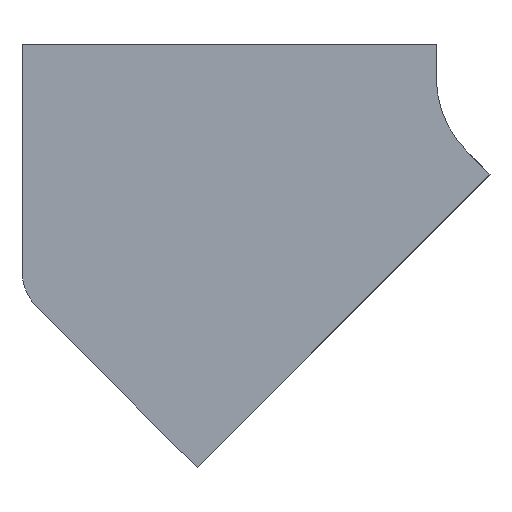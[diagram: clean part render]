
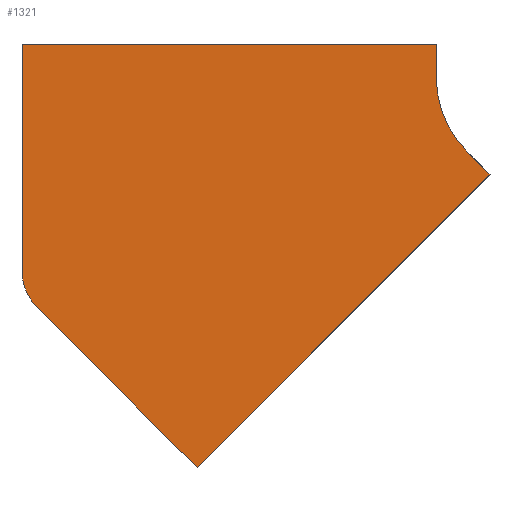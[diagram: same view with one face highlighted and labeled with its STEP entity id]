
A CAD part, front view. The second image highlights one B-rep face of the part: STEP entity #1321.
In plain terms, the highlighted planar face has unit normal (0, -1, 0).
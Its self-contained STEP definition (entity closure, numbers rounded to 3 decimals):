
#1 = CARTESIAN_POINT ( 'NONE',  ( -625., 0., 40. ) ) ;
#5 = VERTEX_POINT ( 'NONE', #1601 ) ;
#39 = CARTESIAN_POINT ( 'NONE',  ( 0., 0., 0. ) ) ;
#65 = DIRECTION ( 'NONE',  ( 0., 1., 0. ) ) ;
#101 = DIRECTION ( 'NONE',  ( 1., 0., 0. ) ) ;
#113 = ORIENTED_EDGE ( 'NONE', *, *, #257, .F. ) ;
#120 = LINE ( 'NONE', #1, #1592 ) ;
#162 = LINE ( 'NONE', #1578, #379 ) ;
#179 = DIRECTION ( 'NONE',  ( 0., -1., 0. ) ) ;
#217 = ORIENTED_EDGE ( 'NONE', *, *, #891, .F. ) ;
#254 = AXIS2_PLACEMENT_3D ( 'NONE', #1337, #179, #1073 ) ;
#257 = EDGE_CURVE ( 'NONE', #1111, #764, #1414, .T. ) ;
#265 = EDGE_CURVE ( 'NONE', #1310, #1101, #496, .T. ) ;
#272 = DIRECTION ( 'NONE',  ( -0.707, 0., -0.707 ) ) ;
#279 = CARTESIAN_POINT ( 'NONE',  ( -413.657, 0., -470.226 ) ) ;
#324 = ORIENTED_EDGE ( 'NONE', *, *, #1114, .F. ) ;
#353 = CARTESIAN_POINT ( 'NONE',  ( -413.657, 0., -470.226 ) ) ;
#379 = VECTOR ( 'NONE', #272, 1000. ) ;
#410 = ORIENTED_EDGE ( 'NONE', *, *, #1201, .F. ) ;
#415 = DIRECTION ( 'NONE',  ( 0.707, 0., -0.707 ) ) ;
#461 = VECTOR ( 'NONE', #1421, 1000. ) ;
#462 = VERTEX_POINT ( 'NONE', #1437 ) ;
#496 = LINE ( 'NONE', #353, #461 ) ;
#507 = CARTESIAN_POINT ( 'NONE',  ( -606.694, 0., -277.189 ) ) ;
#538 = PLANE ( 'NONE',  #254 ) ;
#547 = CARTESIAN_POINT ( 'NONE',  ( -60.104, 0., -116.673 ) ) ;
#556 = DIRECTION ( 'NONE',  ( 0., -1., 0. ) ) ;
#574 = EDGE_CURVE ( 'NONE', #1101, #462, #839, .T. ) ;
#583 = DIRECTION ( 'NONE',  ( 0., 0., 1. ) ) ;
#746 = CARTESIAN_POINT ( 'NONE',  ( -125., 0., 40. ) ) ;
#764 = VERTEX_POINT ( 'NONE', #1393 ) ;
#789 = VECTOR ( 'NONE', #1000, 1000. ) ;
#839 = CIRCLE ( 'NONE', #1643, 62.5 ) ;
#891 = EDGE_CURVE ( 'NONE', #1654, #1310, #162, .T. ) ;
#926 = LINE ( 'NONE', #1579, #1431 ) ;
#938 = ORIENTED_EDGE ( 'NONE', *, *, #574, .F. ) ;
#959 = CARTESIAN_POINT ( 'NONE',  ( -88.388, 0., -88.388 ) ) ;
#1000 = DIRECTION ( 'NONE',  ( 0., 0., -1. ) ) ;
#1073 = DIRECTION ( 'NONE',  ( 0., 0., -1. ) ) ;
#1076 = LINE ( 'NONE', #1435, #1092 ) ;
#1088 = DIRECTION ( 'NONE',  ( 0., 0., -1. ) ) ;
#1092 = VECTOR ( 'NONE', #415, 1000. ) ;
#1101 = VERTEX_POINT ( 'NONE', #507 ) ;
#1111 = VERTEX_POINT ( 'NONE', #1139 ) ;
#1114 = EDGE_CURVE ( 'NONE', #5, #1111, #120, .T. ) ;
#1119 = AXIS2_PLACEMENT_3D ( 'NONE', #39, #556, #1088 ) ;
#1139 = CARTESIAN_POINT ( 'NONE',  ( -125., 0., 40. ) ) ;
#1164 = ORIENTED_EDGE ( 'NONE', *, *, #1324, .F. ) ;
#1201 = EDGE_CURVE ( 'NONE', #1361, #1654, #1076, .T. ) ;
#1223 = EDGE_CURVE ( 'NONE', #462, #5, #926, .T. ) ;
#1245 = CARTESIAN_POINT ( 'NONE',  ( -562.5, 0., -232.995 ) ) ;
#1310 = VERTEX_POINT ( 'NONE', #279 ) ;
#1321 = ADVANCED_FACE ( 'NONE', ( #1458 ), #538, .T. ) ;
#1324 = EDGE_CURVE ( 'NONE', #764, #1361, #1512, .T. ) ;
#1337 = CARTESIAN_POINT ( 'NONE',  ( 0., 0., 0. ) ) ;
#1361 = VERTEX_POINT ( 'NONE', #959 ) ;
#1393 = CARTESIAN_POINT ( 'NONE',  ( -125., 0., 0. ) ) ;
#1414 = LINE ( 'NONE', #746, #789 ) ;
#1421 = DIRECTION ( 'NONE',  ( -0.707, 0., 0.707 ) ) ;
#1431 = VECTOR ( 'NONE', #1445, 1000. ) ;
#1435 = CARTESIAN_POINT ( 'NONE',  ( -88.388, 0., -88.388 ) ) ;
#1437 = CARTESIAN_POINT ( 'NONE',  ( -625., 0., -232.995 ) ) ;
#1445 = DIRECTION ( 'NONE',  ( 0., 0., 1. ) ) ;
#1454 = ORIENTED_EDGE ( 'NONE', *, *, #1223, .F. ) ;
#1458 = FACE_OUTER_BOUND ( 'NONE', #1583, .T. ) ;
#1512 = CIRCLE ( 'NONE', #1119, 125. ) ;
#1578 = CARTESIAN_POINT ( 'NONE',  ( -60.104, 0., -116.673 ) ) ;
#1579 = CARTESIAN_POINT ( 'NONE',  ( -625., 0., -232.995 ) ) ;
#1583 = EDGE_LOOP ( 'NONE', ( #324, #1454, #938, #1614, #217, #410, #1164, #113 ) ) ;
#1592 = VECTOR ( 'NONE', #101, 1000. ) ;
#1601 = CARTESIAN_POINT ( 'NONE',  ( -625., 0., 40. ) ) ;
#1614 = ORIENTED_EDGE ( 'NONE', *, *, #265, .F. ) ;
#1643 = AXIS2_PLACEMENT_3D ( 'NONE', #1245, #65, #583 ) ;
#1654 = VERTEX_POINT ( 'NONE', #547 ) ;
